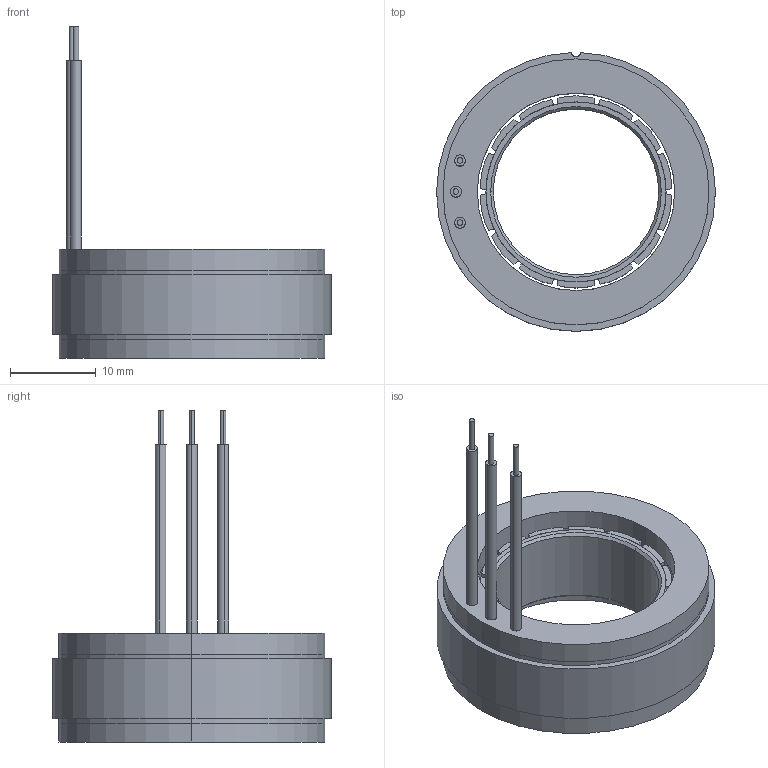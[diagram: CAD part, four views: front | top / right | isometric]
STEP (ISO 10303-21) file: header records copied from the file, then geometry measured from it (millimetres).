
FILE_DESCRIPTION (( 'STEP AP203' ), '1' );
FILE_NAME ('3214萇儂.STEP', '2025-06-07T01:40:27', ( '' ), ( '' ), 'SwSTEP 2.0', 'SolidWorks 2023', '' );
FILE_SCHEMA (( 'CONFIG_CONTROL_DESIGN' ));
Length unit declared in the file: millimetre
Products named in the file (10): 3214铁心涂覆-内绕; 3214转子; 3214磁铁; AWG22线黑; 3214线圈; 3214电机; AWG22电缆 -1; 3214胶; 3214定子-内绕; 3214轴
Assembly tree (35 placements, depth 3):
  3214电机
    3214定子-内绕
      3214铁心涂覆-内绕
      3214线圈  x12
      3214胶
    AWG22电缆 -1  x3
      AWG22线黑
    3214转子
      3214轴
      3214磁铁  x14
Bounding box: 32.5 x 32.49 x 38.7 mm (x, y, z)
Volume: 8470.8 mm3; surface area: 11894.5 mm2
Topology: 32 solids, 32 shells, 455 faces, 1145 edges, 762 vertices
Faces by surface type: plane 268, cylinder 183, cone 4
Entity records: 6893 total; most frequent: DIRECTION 943, CARTESIAN_POINT 907, ORIENTED_EDGE 850, EDGE_CURVE 425, AXIS2_PLACEMENT_3D 318, VECTOR 307, LINE 307, VERTEX_POINT 282
